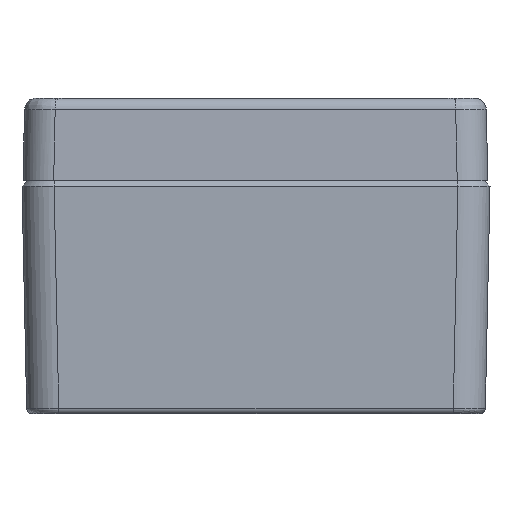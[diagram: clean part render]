
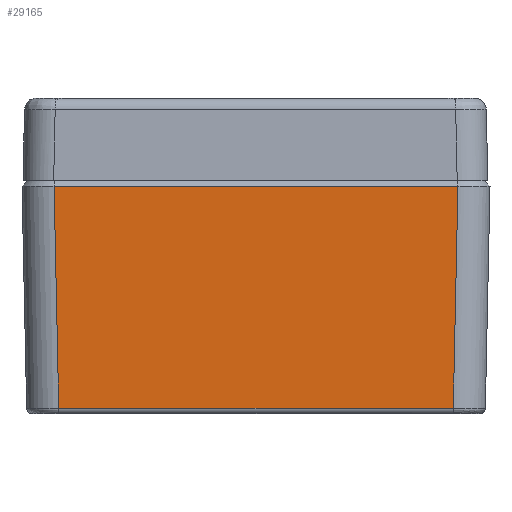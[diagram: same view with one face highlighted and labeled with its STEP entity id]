
A CAD part, left-side view. The second image highlights one B-rep face of the part: STEP entity #29165.
In plain terms, the highlighted planar face has unit normal (-1, 0, -0.021).
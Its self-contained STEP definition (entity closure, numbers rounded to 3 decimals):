
#13 = LINE ( 'NONE', #23764, #7301 ) ;
#513 = DIRECTION ( 'NONE',  ( -0.021, 0.021, 1. ) ) ;
#805 = EDGE_CURVE ( 'NONE', #2956, #2217, #4418, .T. ) ;
#900 = CARTESIAN_POINT ( 'NONE',  ( -5.322, 67.781, -39.021 ) ) ;
#1574 = ORIENTED_EDGE ( 'NONE', *, *, #7388, .F. ) ;
#2217 = VERTEX_POINT ( 'NONE', #22244 ) ;
#2438 = PLANE ( 'NONE',  #29230 ) ;
#2592 = ORIENTED_EDGE ( 'NONE', *, *, #16950, .F. ) ;
#2956 = VERTEX_POINT ( 'NONE', #5772 ) ;
#3825 = EDGE_LOOP ( 'NONE', ( #1574, #18742, #16542, #2592 ) ) ;
#4147 = VERTEX_POINT ( 'NONE', #900 ) ;
#4418 = LINE ( 'NONE', #10480, #10237 ) ;
#5634 = CARTESIAN_POINT ( 'NONE',  ( -5.721, -0.252, -20. ) ) ;
#5772 = CARTESIAN_POINT ( 'NONE',  ( -6.119, 68.577, -1. ) ) ;
#6325 = CARTESIAN_POINT ( 'NONE',  ( -5.322, 33.964, -39.021 ) ) ;
#7301 = VECTOR ( 'NONE', #513, 1000. ) ;
#7388 = EDGE_CURVE ( 'NONE', #2217, #27844, #25373, .T. ) ;
#9461 = CARTESIAN_POINT ( 'NONE',  ( -5.26, 78.741, -41.995 ) ) ;
#9689 = DIRECTION ( 'NONE',  ( 1., 0., 0.021 ) ) ;
#10237 = VECTOR ( 'NONE', #12808, 1000. ) ;
#10406 = FACE_OUTER_BOUND ( 'NONE', #3825, .T. ) ;
#10480 = CARTESIAN_POINT ( 'NONE',  ( -6.119, 33.964, -1. ) ) ;
#12808 = DIRECTION ( 'NONE',  ( 0., -1., 0. ) ) ;
#13787 = LINE ( 'NONE', #6325, #18539 ) ;
#14416 = VECTOR ( 'NONE', #14576, 1000. ) ;
#14576 = DIRECTION ( 'NONE',  ( 0.021, 0.021, -1. ) ) ;
#14813 = EDGE_CURVE ( 'NONE', #4147, #2956, #13, .T. ) ;
#15406 = DIRECTION ( 'NONE',  ( 0., 1., 0. ) ) ;
#16542 = ORIENTED_EDGE ( 'NONE', *, *, #14813, .F. ) ;
#16950 = EDGE_CURVE ( 'NONE', #27844, #4147, #13787, .T. ) ;
#18539 = VECTOR ( 'NONE', #15406, 1000. ) ;
#18742 = ORIENTED_EDGE ( 'NONE', *, *, #805, .F. ) ;
#19070 = DIRECTION ( 'NONE',  ( -0.021, 0., 1. ) ) ;
#21733 = CARTESIAN_POINT ( 'NONE',  ( -5.322, 0.147, -39.021 ) ) ;
#22244 = CARTESIAN_POINT ( 'NONE',  ( -6.119, -0.65, -1. ) ) ;
#23764 = CARTESIAN_POINT ( 'NONE',  ( -5.721, 68.179, -20. ) ) ;
#25373 = LINE ( 'NONE', #5634, #14416 ) ;
#27844 = VERTEX_POINT ( 'NONE', #21733 ) ;
#29165 = ADVANCED_FACE ( 'NONE', ( #10406 ), #2438, .F. ) ;
#29230 = AXIS2_PLACEMENT_3D ( 'NONE', #9461, #9689, #19070 ) ;
